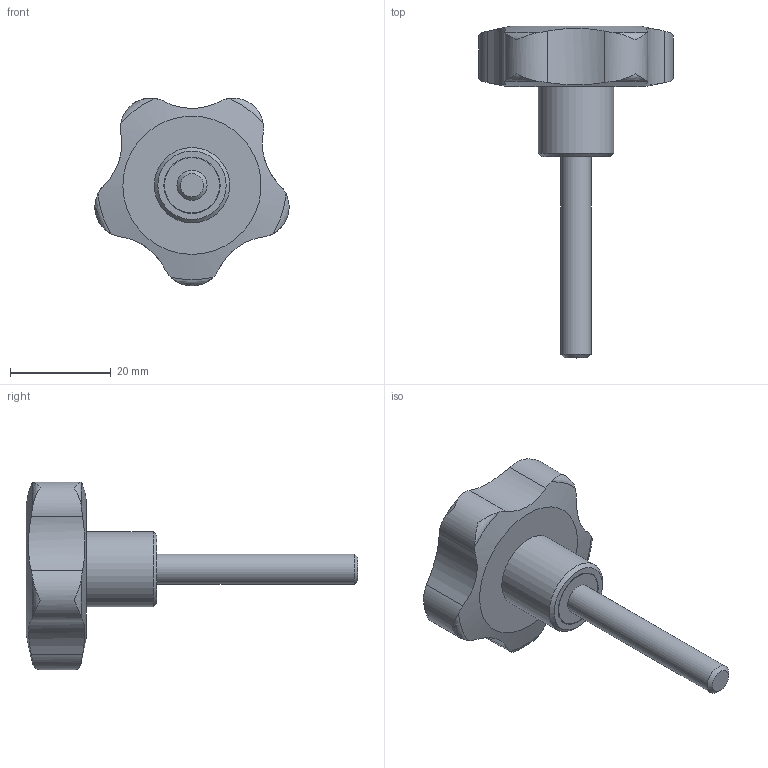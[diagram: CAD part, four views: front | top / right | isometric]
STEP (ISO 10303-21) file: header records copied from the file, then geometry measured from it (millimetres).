
FILE_DESCRIPTION( ( 'STEP AP203' ), '1' );
FILE_NAME( 'C:/Temp/Ganter_Step_05_03_2020/data/2_2/gn_5337_4/gn_5337_4_s/Star knob GN 5337.4-40-M6-40.stp', '2020-03-05T12:09:43', ( 'License CC BY-ND 4.0' ), ( 'CADENAS' ), ' ', 'PARTsolutions', ' ' );
FILE_SCHEMA( ( 'CONFIG_CONTROL_DESIGN' ) );
Length unit declared in the file: millimetre
Products named in the file (1): _Star knob GN 5337.4-40-M6-40
Bounding box: 38.62 x 66 x 37.33 mm (x, y, z)
Volume: 14604.9 mm3; surface area: 4607.9 mm2
Topology: 1 solids, 1 shells, 34 faces, 95 edges, 66 vertices
Faces by surface type: cylinder 14, torus 10, plane 5, cone 3, bspline 1, sphere 1
Full cylindrical faces by diameter (mm): 6 x1, 11 x1, 11.2 x1, 15 x1
Entity records: 1467 total; most frequent: CARTESIAN_POINT 679, ORIENTED_EDGE 164, DIRECTION 122, EDGE_CURVE 82, VERTEX_POINT 63, AXIS2_PLACEMENT_3D 56, B_SPLINE_CURVE_WITH_KNOTS 50, EDGE_LOOP 46
